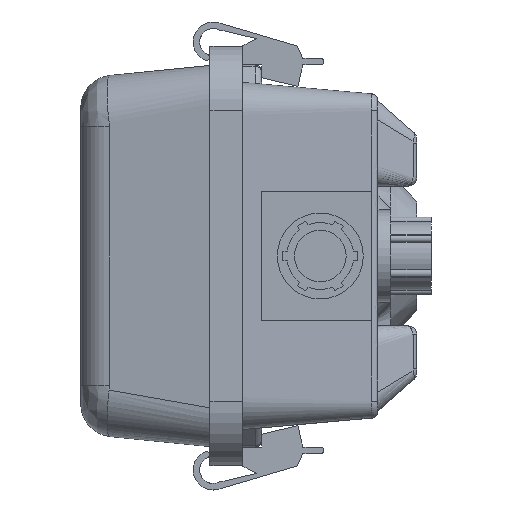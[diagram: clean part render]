
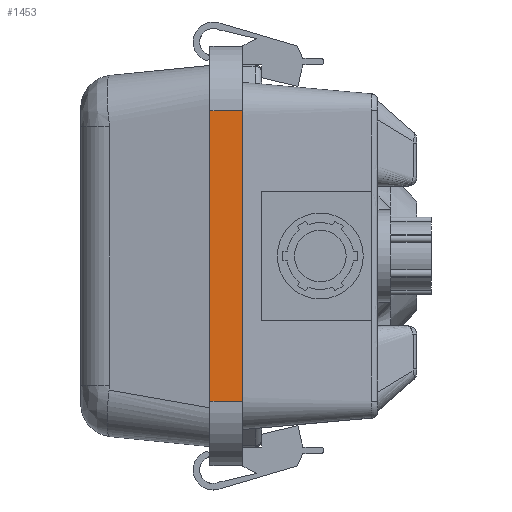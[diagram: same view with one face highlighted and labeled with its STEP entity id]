
A CAD part, left-side view. The second image highlights one B-rep face of the part: STEP entity #1453.
In plain terms, the highlighted planar face has unit normal (-1, 0, 0) as drawn and (1, 0, 0) by its records, which use the part's own axes.
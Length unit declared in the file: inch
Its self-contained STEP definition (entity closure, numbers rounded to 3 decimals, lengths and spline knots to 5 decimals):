
#230 = DIRECTION ( 'NONE',  ( 0., 0., 1. ) ) ;
#555 = DIRECTION ( 'NONE',  ( 0., 1., 0. ) ) ;
#1453 = ADVANCED_FACE ( 'NONE', ( #11695 ), #27638, .T. ) ;
#2325 = ORIENTED_EDGE ( 'NONE', *, *, #26519, .F. ) ;
#2335 = DIRECTION ( 'NONE',  ( 0., 0., 1. ) ) ;
#3932 = VERTEX_POINT ( 'NONE', #19874 ) ;
#3967 = ORIENTED_EDGE ( 'NONE', *, *, #10542, .T. ) ;
#4346 = LINE ( 'NONE', #28013, #15939 ) ;
#8446 = LINE ( 'NONE', #30084, #20811 ) ;
#8483 = LINE ( 'NONE', #14457, #23730 ) ;
#9054 = CARTESIAN_POINT ( 'NONE',  ( 12.9375, -2.6, 2.25 ) ) ;
#9165 = CARTESIAN_POINT ( 'NONE',  ( 12.9375, -2.6, 2.25 ) ) ;
#9523 = AXIS2_PLACEMENT_3D ( 'NONE', #9165, #25415, #11501 ) ;
#10542 = EDGE_CURVE ( 'NONE', #14441, #3932, #8483, .T. ) ;
#11501 = DIRECTION ( 'NONE',  ( 0., 0., -1. ) ) ;
#11695 = FACE_OUTER_BOUND ( 'NONE', #26993, .T. ) ;
#11953 = VERTEX_POINT ( 'NONE', #14619 ) ;
#12558 = CARTESIAN_POINT ( 'NONE',  ( 12.9375, -2.6, -2.25 ) ) ;
#14441 = VERTEX_POINT ( 'NONE', #12558 ) ;
#14457 = CARTESIAN_POINT ( 'NONE',  ( 12.9375, -2.6, -2.25 ) ) ;
#14469 = CARTESIAN_POINT ( 'NONE',  ( 12.9375, -2.6, 2.25 ) ) ;
#14521 = LINE ( 'NONE', #14469, #26875 ) ;
#14619 = CARTESIAN_POINT ( 'NONE',  ( 12.9375, -2.1, 2.25 ) ) ;
#15708 = ORIENTED_EDGE ( 'NONE', *, *, #28920, .T. ) ;
#15939 = VECTOR ( 'NONE', #230, 39.37008 ) ;
#16644 = EDGE_CURVE ( 'NONE', #28679, #11953, #14521, .T. ) ;
#19874 = CARTESIAN_POINT ( 'NONE',  ( 12.9375, -2.1, -2.25 ) ) ;
#20811 = VECTOR ( 'NONE', #2335, 39.37008 ) ;
#23492 = ORIENTED_EDGE ( 'NONE', *, *, #16644, .F. ) ;
#23730 = VECTOR ( 'NONE', #555, 39.37008 ) ;
#25415 = DIRECTION ( 'NONE',  ( 1., 0., 0. ) ) ;
#26519 = EDGE_CURVE ( 'NONE', #14441, #28679, #8446, .T. ) ;
#26875 = VECTOR ( 'NONE', #28253, 39.37008 ) ;
#26993 = EDGE_LOOP ( 'NONE', ( #2325, #3967, #15708, #23492 ) ) ;
#27638 = PLANE ( 'NONE',  #9523 ) ;
#28013 = CARTESIAN_POINT ( 'NONE',  ( 12.9375, -2.1, 2.25 ) ) ;
#28253 = DIRECTION ( 'NONE',  ( 0., 1., 0. ) ) ;
#28679 = VERTEX_POINT ( 'NONE', #9054 ) ;
#28920 = EDGE_CURVE ( 'NONE', #3932, #11953, #4346, .T. ) ;
#30084 = CARTESIAN_POINT ( 'NONE',  ( 12.9375, -2.6, 2.25 ) ) ;
